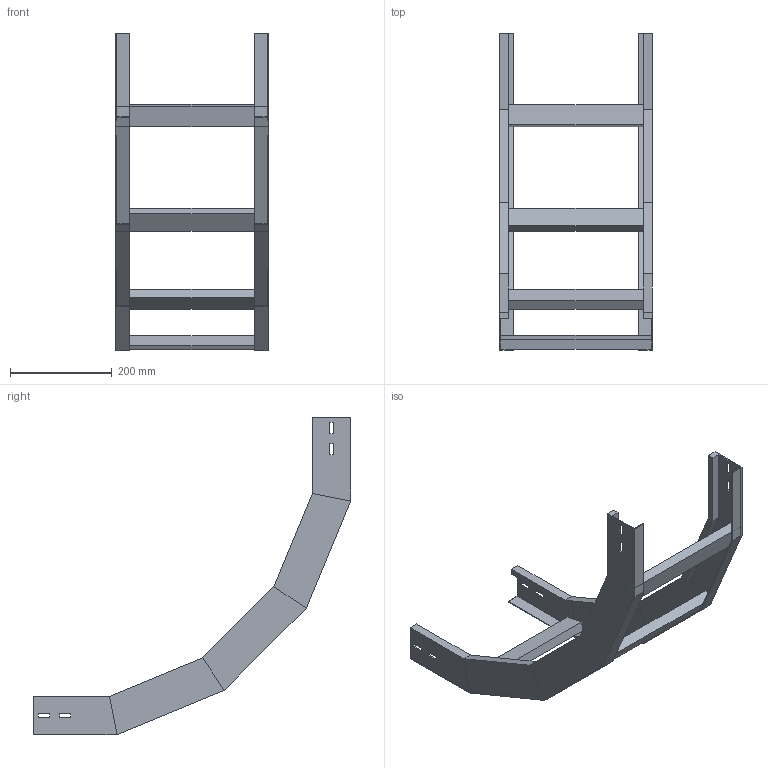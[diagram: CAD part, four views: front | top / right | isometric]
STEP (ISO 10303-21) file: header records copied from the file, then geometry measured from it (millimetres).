
FILE_DESCRIPTION (( 'STEP AP214' ), '1' );
FILE_NAME ('B2X30B5C300XX.step', '2025-03-20T10:25:47', ( '' ), ( '' ), 'SwSTEP 2.0', 'SolidWorks 2023', '' );
FILE_SCHEMA (( 'AUTOMOTIVE_DESIGN' ));
Length unit declared in the file: millimetre
Products named in the file (3): LONGH.SALITA_90°_H75_R500; TRAVERSINO_300; B2X30B5C300XX
Assembly tree (6 placements, depth 2):
  B2X30B5C300XX
    LONGH.SALITA_90°_H75_R500  x2
    TRAVERSINO_300  x4
Bounding box: 300 x 624.12 x 624.12 mm (x, y, z)
Volume: 1691170.9 mm3; surface area: 602723.8 mm2
Topology: 6 solids, 6 shells, 140 faces, 320 edges, 192 vertices
Faces by surface type: plane 140
Entity records: 1872 total; most frequent: CARTESIAN_POINT 309, ORIENTED_EDGE 296, DIRECTION 294, EDGE_CURVE 148, VECTOR 148, LINE 148, VERTEX_POINT 88, AXIS2_PLACEMENT_3D 73
